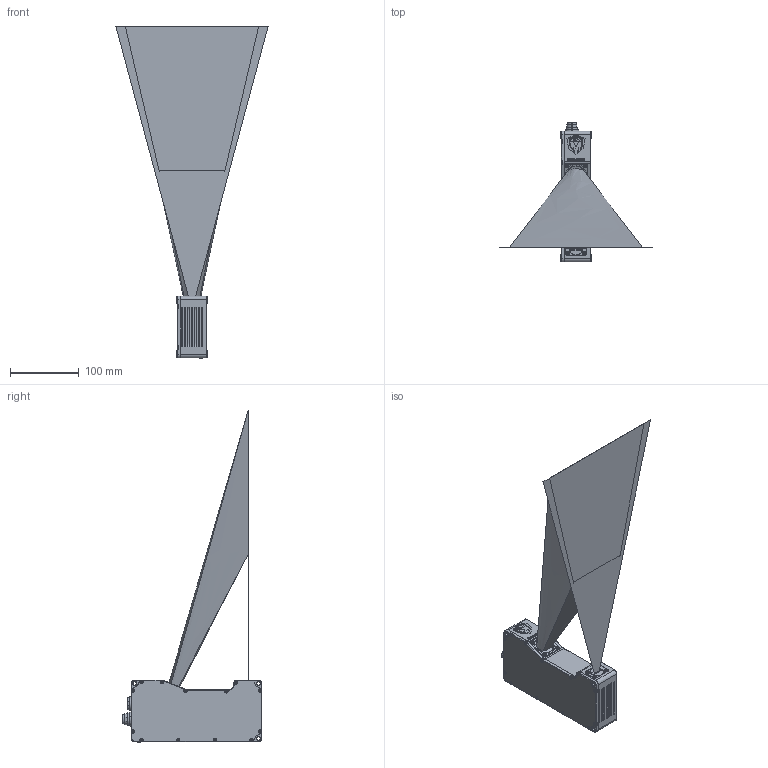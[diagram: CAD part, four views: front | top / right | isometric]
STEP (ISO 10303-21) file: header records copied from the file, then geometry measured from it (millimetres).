
FILE_DESCRIPTION (( 'STEP AP214' ), '1' );
FILE_NAME ('25022.01.03_CAD_Gocator-2440_312440A-X-R-01-S.STEP', '2019-02-22T21:10:12', ( '' ), ( '' ), 'SwSTEP 2.0', 'SolidWorks 2018', '' );
FILE_SCHEMA (( 'AUTOMOTIVE_DESIGN' ));
Length unit declared in the file: millimetre
Products named in the file (1): 25022.01.03_CAD_Gocator-2440_312440A-X-R-01-S
Bounding box: 221.43 x 203.3 x 483 mm (x, y, z)
Surface area: 261733.5 mm2 (no closed solid volume)
Topology: 0 solids, 4 shells, 2073 faces, 5376 edges, 3464 vertices
Faces by surface type: cylinder 765, plane 718, cone 300, bspline 254, torus 21, sphere 15
Entity records: 95097 total; most frequent: CARTESIAN_POINT 23084, ORIENTED_EDGE 10640, DIRECTION 9628, EDGE_CURVE 5324, AXIS2_PLACEMENT_3D 3462, VERTEX_POINT 3436, VECTOR 2704, LINE 2704
